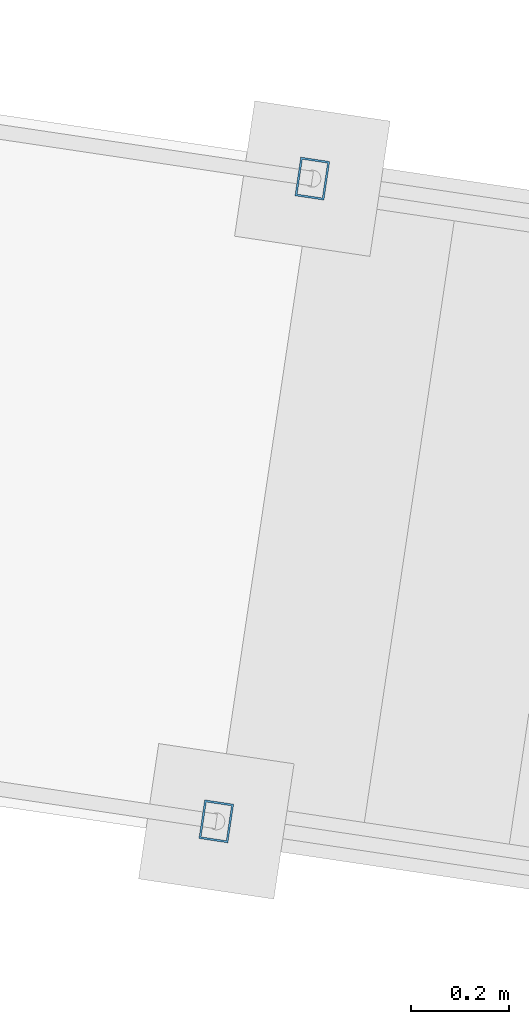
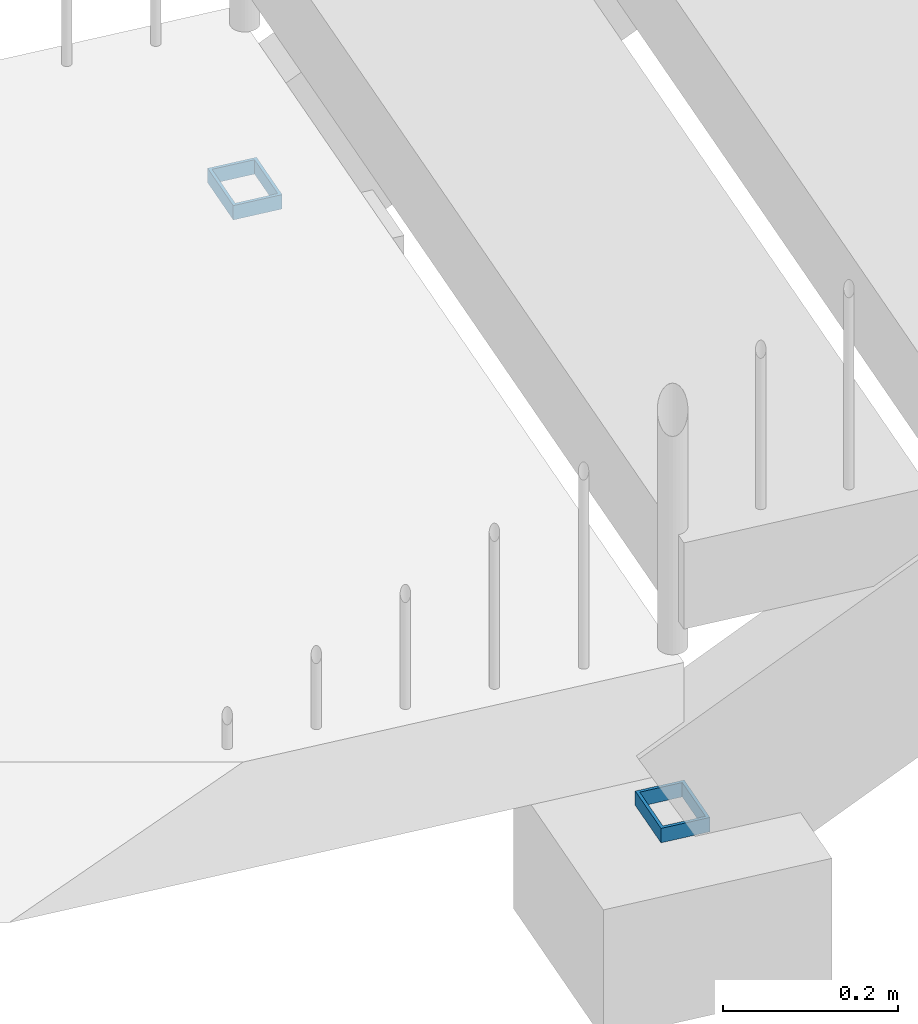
# One storey, part 7 of 143: 2 columns, 1 element without a shape of its own.
"""IFC4 building model written with IfcOpenShell, lengths in metres."""

from ifc_helpers import new_model, si_unit, direction, frame, origin_with_axes, place, context, subcontext, project, spatial, hollow_rectangle, extrude, material, material_profile, profile_set, profile_usage, type_object, element, aggregate, save


model = new_model("IFC4")

# Units and contexts
model_context = context("Model", 3, precision=1e-05, world=origin_with_axes(), true_north=direction((0.0, 1.0)))
body_context = subcontext(model_context, "Body", "Model", "MODEL_VIEW")
ifc_project = project(units=[si_unit("VOLUMEUNIT", "CUBIC_METRE"), si_unit("LENGTHUNIT", "METRE"), si_unit("AREAUNIT", "SQUARE_METRE")], contexts=[model_context])

# Site, building, storey
site_placement = place(None, origin_with_axes())
site = spatial("IfcSite", under=ifc_project, at=site_placement, Name="Lares · Rua das Mercês · artigo 4771")
building_placement = place(site_placement, frame((15.0, 9.7, 15.8), z_axis=(0.0, 0.0, 1.0), x_axis=(0.989015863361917, -0.147809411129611, 0.0)))
building = spatial("IfcBuilding", under=site, at=building_placement, Name="Casa Sobreposta")
storey_placement = place(building_placement, origin_with_axes())
storey = spatial("IfcBuildingStorey", under=building, at=storey_placement, Name="00 · Habitação e estacionamento", Elevation=15.8)

# Stair, columns
stair_placement = place(storey_placement, origin_with_axes())
stair = element("IfcStair", 1, at=stair_placement, inside=storey, Name="Jardim · escada pela fachada poente", PredefinedType="STRAIGHT_RUN_STAIR")
ifc_material = material(Name="Aço pintado / Stahl lackiert", Category="steel")
ifc_material_profile = material_profile(ifc_material, hollow_rectangle(XDim=0.06, YDim=0.08, WallThickness=0.004))
ifc_profile_set = profile_set([ifc_material_profile], Name="RHS80x60x4")
ifc_profile_usage_1 = profile_usage(ifc_profile_set)
column_type = type_object("IfcColumnType", Name="RHS80x60x4 / steel", PredefinedType="NOTDEFINED", material=ifc_profile_set)
column_1_placement = place(stair_placement, frame((-11.65, 0.435, -3.44), z_axis=(0.0, 0.0, 1.0), x_axis=(1.0, 0.0, 0.0)))
column_1 = element("IfcColumn", 2, at=column_1_placement, type_object=column_type, material=ifc_profile_usage_1, Name="Jardim · montante", context=body_context, shape_type="SweptSolid", body=[
    extrude(hollow_rectangle(XDim=0.06, YDim=0.08, WallThickness=0.004), origin_with_axes(), (0.0, 0.0, 1.0), 0.02),
])
ifc_profile_usage_2 = profile_usage(ifc_profile_set)
column_2_placement = place(stair_placement, frame((-11.65, 1.765, -3.44), z_axis=(0.0, 0.0, 1.0), x_axis=(1.0, 0.0, 0.0)))
column_2 = element("IfcColumn", 3, at=column_2_placement, type_object=column_type, material=ifc_profile_usage_2, Name="Jardim · montante", context=body_context, shape_type="SweptSolid", body=[
    extrude(hollow_rectangle(XDim=0.06, YDim=0.08, WallThickness=0.004), origin_with_axes(), (0.0, 0.0, 1.0), 0.02),
])
aggregate(stair, [column_1, column_2])

save(model, "model.ifc")
